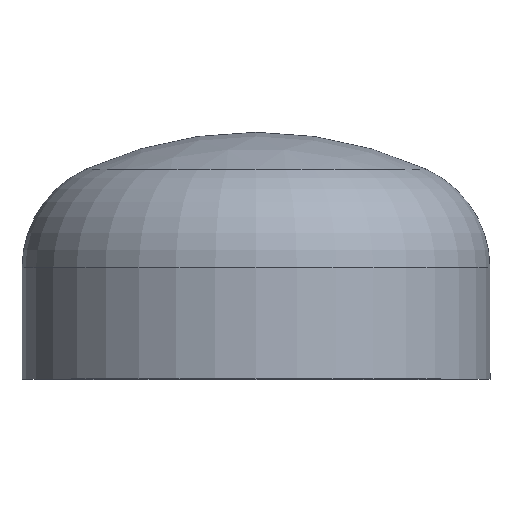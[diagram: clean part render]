
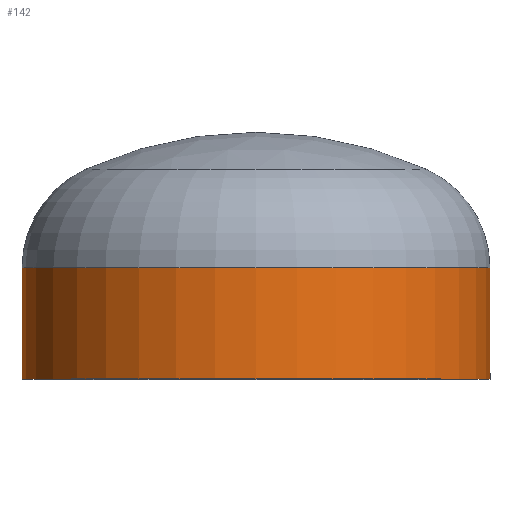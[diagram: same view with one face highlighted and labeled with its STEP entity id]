
A CAD part, top view. The second image highlights one B-rep face of the part: STEP entity #142.
In plain terms, the highlighted cylindrical face has radius 84.15 mm (diameter 168.3 mm), a partial arc.
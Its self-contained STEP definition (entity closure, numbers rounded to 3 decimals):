
#1 = CIRCLE ( 'NONE', #46, 84.15 ) ;
#7 = CYLINDRICAL_SURFACE ( 'NONE', #158, 84.15 ) ;
#8 = VERTEX_POINT ( 'NONE', #299 ) ;
#10 = DIRECTION ( 'NONE',  ( 0., -1., 0. ) ) ;
#21 = FACE_OUTER_BOUND ( 'NONE', #309, .T. ) ;
#27 = AXIS2_PLACEMENT_3D ( 'NONE', #87, #10, #396 ) ;
#46 = AXIS2_PLACEMENT_3D ( 'NONE', #59, #298, #100 ) ;
#59 = CARTESIAN_POINT ( 'NONE',  ( 0., 40., 0. ) ) ;
#84 = DIRECTION ( 'NONE',  ( 0., -1., 0. ) ) ;
#87 = CARTESIAN_POINT ( 'NONE',  ( 0., 0., 0. ) ) ;
#89 = ORIENTED_EDGE ( 'NONE', *, *, #353, .F. ) ;
#98 = VERTEX_POINT ( 'NONE', #251 ) ;
#100 = DIRECTION ( 'NONE',  ( 1., 0., 0. ) ) ;
#106 = DIRECTION ( 'NONE',  ( 1., 0., 0. ) ) ;
#110 = CARTESIAN_POINT ( 'NONE',  ( 0., 0., 0. ) ) ;
#127 = CARTESIAN_POINT ( 'NONE',  ( -84.15, 0., 0. ) ) ;
#129 = LINE ( 'NONE', #295, #216 ) ;
#142 = ADVANCED_FACE ( 'NONE', ( #21 ), #7, .T. ) ;
#145 = CARTESIAN_POINT ( 'NONE',  ( -84.15, 0., 0. ) ) ;
#158 = AXIS2_PLACEMENT_3D ( 'NONE', #110, #269, #106 ) ;
#190 = ORIENTED_EDGE ( 'NONE', *, *, #358, .T. ) ;
#216 = VECTOR ( 'NONE', #322, 1000. ) ;
#223 = VECTOR ( 'NONE', #84, 1000. ) ;
#241 = CARTESIAN_POINT ( 'NONE',  ( -84.15, 40., 0. ) ) ;
#251 = CARTESIAN_POINT ( 'NONE',  ( 84.15, 0., 0. ) ) ;
#263 = ORIENTED_EDGE ( 'NONE', *, *, #408, .T. ) ;
#269 = DIRECTION ( 'NONE',  ( 0., -1., 0. ) ) ;
#295 = CARTESIAN_POINT ( 'NONE',  ( 84.15, 0., 0. ) ) ;
#298 = DIRECTION ( 'NONE',  ( 0., -1., 0. ) ) ;
#299 = CARTESIAN_POINT ( 'NONE',  ( 84.15, 40., 0. ) ) ;
#309 = EDGE_LOOP ( 'NONE', ( #263, #190, #89, #392 ) ) ;
#312 = VERTEX_POINT ( 'NONE', #145 ) ;
#322 = DIRECTION ( 'NONE',  ( 0., -1., 0. ) ) ;
#353 = EDGE_CURVE ( 'NONE', #98, #312, #368, .T. ) ;
#358 = EDGE_CURVE ( 'NONE', #401, #312, #379, .T. ) ;
#368 = CIRCLE ( 'NONE', #27, 84.15 ) ;
#372 = EDGE_CURVE ( 'NONE', #8, #98, #129, .T. ) ;
#379 = LINE ( 'NONE', #127, #223 ) ;
#392 = ORIENTED_EDGE ( 'NONE', *, *, #372, .F. ) ;
#396 = DIRECTION ( 'NONE',  ( 1., 0., 0. ) ) ;
#401 = VERTEX_POINT ( 'NONE', #241 ) ;
#408 = EDGE_CURVE ( 'NONE', #8, #401, #1, .T. ) ;
